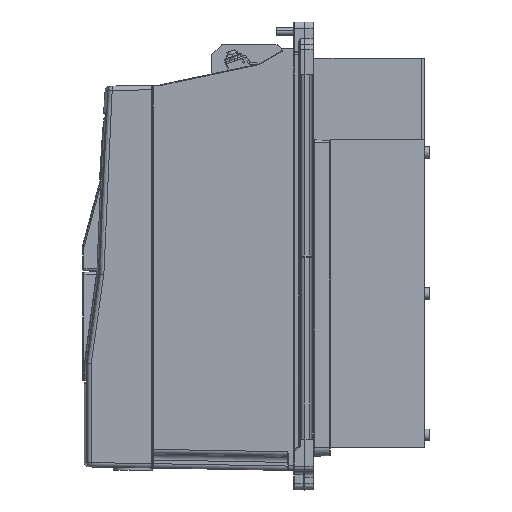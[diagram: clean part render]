
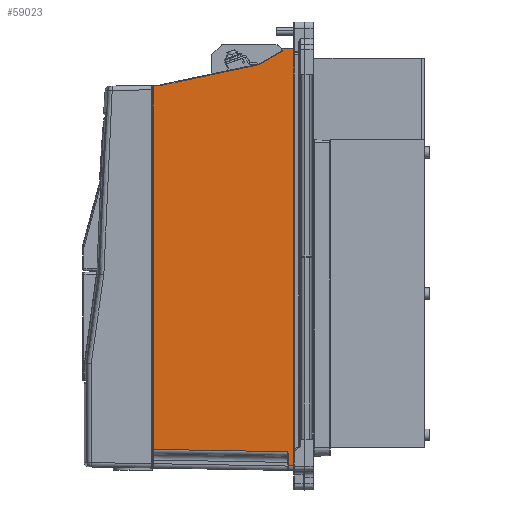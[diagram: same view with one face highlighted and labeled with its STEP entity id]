
A CAD part, left-side view. The second image highlights one B-rep face of the part: STEP entity #59023.
In plain terms, the highlighted planar face has unit normal (-1, 0.018, 0).
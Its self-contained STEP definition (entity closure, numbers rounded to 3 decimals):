
#605 = CARTESIAN_POINT ( 'NONE',  ( -108.8, 58.5, 166. ) ) ;
#1332 = DIRECTION ( 'NONE',  ( 0., 0., -1. ) ) ;
#4200 = VECTOR ( 'NONE', #16540, 1000. ) ;
#6044 = VECTOR ( 'NONE', #87222, 1000. ) ;
#6295 = CARTESIAN_POINT ( 'NONE',  ( -108.889, 53.518, 136.593 ) ) ;
#6544 = LINE ( 'NONE', #81723, #89160 ) ;
#6819 = CARTESIAN_POINT ( 'NONE',  ( -110.658, -44.991, 164.784 ) ) ;
#7159 = CARTESIAN_POINT ( 'NONE',  ( -108.699, 64.136, -153.017 ) ) ;
#8303 = CARTESIAN_POINT ( 'NONE',  ( -110.747, -49.991, -157.617 ) ) ;
#8412 = LINE ( 'NONE', #605, #72226 ) ;
#12632 = CARTESIAN_POINT ( 'NONE',  ( -110.819, -54., 170. ) ) ;
#12994 = VERTEX_POINT ( 'NONE', #6819 ) ;
#13228 = CARTESIAN_POINT ( 'NONE',  ( -110.73, -49.009, -154.992 ) ) ;
#16540 = DIRECTION ( 'NONE',  ( 0., 0., -1. ) ) ;
#16882 = CARTESIAN_POINT ( 'NONE',  ( -110.747, -49.991, -165.921 ) ) ;
#17315 = VECTOR ( 'NONE', #96002, 1000. ) ;
#19894 = VERTEX_POINT ( 'NONE', #83148 ) ;
#22257 = LINE ( 'NONE', #7159, #17315 ) ;
#22434 = EDGE_CURVE ( 'NONE', #75666, #75627, #72582, .T. ) ;
#22752 = CARTESIAN_POINT ( 'NONE',  ( -110.747, -49.991, -165.929 ) ) ;
#22765 = ORIENTED_EDGE ( 'NONE', *, *, #80045, .T. ) ;
#22863 = LINE ( 'NONE', #83872, #4200 ) ;
#23919 = CARTESIAN_POINT ( 'NONE',  ( -110.658, -44.991, 166. ) ) ;
#25089 = EDGE_CURVE ( 'NONE', #42901, #75627, #60378, .T. ) ;
#25936 = ORIENTED_EDGE ( 'NONE', *, *, #25089, .F. ) ;
#26812 = CARTESIAN_POINT ( 'NONE',  ( -110.73, -49.009, -154.992 ) ) ;
#28018 = DIRECTION ( 'NONE',  ( 0.018, 1., -0.017 ) ) ;
#28060 = EDGE_CURVE ( 'NONE', #19894, #56121, #83745, .T. ) ;
#30522 = CARTESIAN_POINT ( 'NONE',  ( -110.328, -26.648, 153.633 ) ) ;
#30790 = VERTEX_POINT ( 'NONE', #58927 ) ;
#31129 = CARTESIAN_POINT ( 'NONE',  ( -108.809, 58.009, 170. ) ) ;
#31240 = EDGE_CURVE ( 'NONE', #56121, #73316, #6544, .T. ) ;
#31711 = CARTESIAN_POINT ( 'NONE',  ( -110.747, -49.991, -157.379 ) ) ;
#31774 = CARTESIAN_POINT ( 'NONE',  ( -108.8, 58.5, 170. ) ) ;
#33255 = ORIENTED_EDGE ( 'NONE', *, *, #54035, .T. ) ;
#34904 = EDGE_CURVE ( 'NONE', #66320, #19894, #63807, .T. ) ;
#35064 = EDGE_LOOP ( 'NONE', ( #84586, #76231, #78211, #71757, #64013, #25936, #84943, #95624, #22765, #66925, #33255, #81612, #77488, #57457 ) ) ;
#36429 = EDGE_CURVE ( 'NONE', #58230, #73316, #72669, .T. ) ;
#36497 = DIRECTION ( 'NONE',  ( 0., 0., -1. ) ) ;
#36973 = CARTESIAN_POINT ( 'NONE',  ( -108.891, 53.455, 136.607 ) ) ;
#38220 = CARTESIAN_POINT ( 'NONE',  ( -110.658, -44.991, 164.784 ) ) ;
#38358 = CARTESIAN_POINT ( 'NONE',  ( -108.891, 53.455, 136.607 ) ) ;
#38616 = CARTESIAN_POINT ( 'NONE',  ( -108.887, 53.646, 136.585 ) ) ;
#39179 = CARTESIAN_POINT ( 'NONE',  ( -110.654, -44.808, 164.1 ) ) ;
#41167 = EDGE_CURVE ( 'NONE', #58230, #90869, #8412, .T. ) ;
#41232 = CARTESIAN_POINT ( 'NONE',  ( -108.81, 57.916, 136.51 ) ) ;
#41896 = CARTESIAN_POINT ( 'NONE',  ( -108.809, 58.009, -153.124 ) ) ;
#42901 = VERTEX_POINT ( 'NONE', #44656 ) ;
#44656 = CARTESIAN_POINT ( 'NONE',  ( -110.326, -26.545, 153.611 ) ) ;
#46121 = EDGE_CURVE ( 'NONE', #30790, #70602, #88738, .T. ) ;
#46384 = CARTESIAN_POINT ( 'NONE',  ( -110.743, -49.76, -156.465 ) ) ;
#46922 = DIRECTION ( 'NONE',  ( 0.018, 1., 0. ) ) ;
#50624 = VERTEX_POINT ( 'NONE', #36973 ) ;
#52242 = CARTESIAN_POINT ( 'NONE',  ( -110.745, -49.84, -156.69 ) ) ;
#52514 = CARTESIAN_POINT ( 'NONE',  ( -110.326, -26.545, 153.611 ) ) ;
#54035 = EDGE_CURVE ( 'NONE', #70602, #66320, #22257, .T. ) ;
#56121 = VERTEX_POINT ( 'NONE', #22752 ) ;
#57457 = ORIENTED_EDGE ( 'NONE', *, *, #31240, .T. ) ;
#58230 = VERTEX_POINT ( 'NONE', #77158 ) ;
#58371 = EDGE_CURVE ( 'NONE', #66174, #50624, #60084, .T. ) ;
#58820 = DIRECTION ( 'NONE',  ( -0.018, -1., -0.018 ) ) ;
#58927 = CARTESIAN_POINT ( 'NONE',  ( -108.809, 58.009, 136.509 ) ) ;
#59023 = ADVANCED_FACE ( 'NONE', ( #76706 ), #68878, .F. ) ;
#59237 = DIRECTION ( 'NONE',  ( 0.018, 1., 0. ) ) ;
#59372 = CARTESIAN_POINT ( 'NONE',  ( -110.332, -26.837, 153.723 ) ) ;
#60084 =( BOUNDED_CURVE ( )  B_SPLINE_CURVE ( 3, ( #78602, #80506, #6295, #38358 ),
 .UNSPECIFIED., .F., .T. ) 
 B_SPLINE_CURVE_WITH_KNOTS ( ( 4, 4 ),
 ( 1.588, 1.78 ),
 .UNSPECIFIED. ) 
 CURVE ( )  GEOMETRIC_REPRESENTATION_ITEM ( )  RATIONAL_B_SPLINE_CURVE ( ( 1., 0.997, 0.997, 1. ) ) 
 REPRESENTATION_ITEM ( '' )  );
#60378 =( BOUNDED_CURVE ( )  B_SPLINE_CURVE ( 3, ( #52514, #30522, #73497, #59372 ),
 .UNSPECIFIED., .F., .T. ) 
 B_SPLINE_CURVE_WITH_KNOTS ( ( 4, 4 ),
 ( 4.398, 4.712 ),
 .UNSPECIFIED. ) 
 CURVE ( )  GEOMETRIC_REPRESENTATION_ITEM ( )  RATIONAL_B_SPLINE_CURVE ( ( 1., 0.992, 0.992, 1. ) ) 
 REPRESENTATION_ITEM ( '' )  );
#61522 = CARTESIAN_POINT ( 'NONE',  ( -110.747, -49.956, -157.147 ) ) ;
#61589 = DIRECTION ( 'NONE',  ( 1., -0.018, 0. ) ) ;
#61676 = CARTESIAN_POINT ( 'NONE',  ( -110.658, -44.991, 164.418 ) ) ;
#61919 = CARTESIAN_POINT ( 'NONE',  ( -110.819, -54., -166.001 ) ) ;
#62162 = CARTESIAN_POINT ( 'NONE',  ( -110.649, -44.491, 163.917 ) ) ;
#62626 =( BOUNDED_CURVE ( )  B_SPLINE_CURVE ( 3, ( #62162, #39179, #61676, #38220 ),
 .UNSPECIFIED., .F., .T. ) 
 B_SPLINE_CURVE_WITH_KNOTS ( ( 4, 4 ),
 ( 4.712, 5.76 ),
 .UNSPECIFIED. ) 
 CURVE ( )  GEOMETRIC_REPRESENTATION_ITEM ( )  RATIONAL_B_SPLINE_CURVE ( ( 1., 0.911, 0.911, 1. ) ) 
 REPRESENTATION_ITEM ( '' )  );
#62948 = VECTOR ( 'NONE', #65104, 1000. ) ;
#63807 = B_SPLINE_CURVE_WITH_KNOTS ( 'NONE', 3,
 ( #13228, #82500, #68809, #46384, #52242, #61522, #31711, #8303 ),
 .UNSPECIFIED., .F., .F.,
 ( 4, 2, 2, 4 ),
 ( 0., 0.001, 0.002, 0.003 ),
 .UNSPECIFIED. ) ;
#64013 = ORIENTED_EDGE ( 'NONE', *, *, #22434, .T. ) ;
#65104 = DIRECTION ( 'NONE',  ( 0.018, 0.978, -0.208 ) ) ;
#66174 = VERTEX_POINT ( 'NONE', #38616 ) ;
#66320 = VERTEX_POINT ( 'NONE', #26812 ) ;
#66925 = ORIENTED_EDGE ( 'NONE', *, *, #46121, .T. ) ;
#68809 = CARTESIAN_POINT ( 'NONE',  ( -110.738, -49.482, -155.814 ) ) ;
#68878 = PLANE ( 'NONE',  #71297 ) ;
#69457 = VECTOR ( 'NONE', #36497, 1000. ) ;
#70602 = VERTEX_POINT ( 'NONE', #41896 ) ;
#71078 = EDGE_CURVE ( 'NONE', #42901, #50624, #81152, .T. ) ;
#71297 = AXIS2_PLACEMENT_3D ( 'NONE', #31774, #61589, #46922 ) ;
#71757 = ORIENTED_EDGE ( 'NONE', *, *, #76785, .F. ) ;
#72226 = VECTOR ( 'NONE', #59237, 1000. ) ;
#72582 = LINE ( 'NONE', #95988, #6044 ) ;
#72669 = LINE ( 'NONE', #12632, #69457 ) ;
#73316 = VERTEX_POINT ( 'NONE', #61919 ) ;
#73497 = CARTESIAN_POINT ( 'NONE',  ( -110.33, -26.746, 153.671 ) ) ;
#75627 = VERTEX_POINT ( 'NONE', #78393 ) ;
#75666 = VERTEX_POINT ( 'NONE', #93498 ) ;
#76231 = ORIENTED_EDGE ( 'NONE', *, *, #41167, .T. ) ;
#76706 = FACE_OUTER_BOUND ( 'NONE', #35064, .T. ) ;
#76785 = EDGE_CURVE ( 'NONE', #75666, #12994, #62626, .T. ) ;
#77158 = CARTESIAN_POINT ( 'NONE',  ( -110.819, -54., 166. ) ) ;
#77488 = ORIENTED_EDGE ( 'NONE', *, *, #28060, .T. ) ;
#78211 = ORIENTED_EDGE ( 'NONE', *, *, #93391, .T. ) ;
#78393 = CARTESIAN_POINT ( 'NONE',  ( -110.332, -26.837, 153.723 ) ) ;
#78602 = CARTESIAN_POINT ( 'NONE',  ( -108.887, 53.646, 136.585 ) ) ;
#79705 = VECTOR ( 'NONE', #89131, 1000. ) ;
#80045 = EDGE_CURVE ( 'NONE', #66174, #30790, #94914, .T. ) ;
#80365 = VECTOR ( 'NONE', #1332, 1000. ) ;
#80506 = CARTESIAN_POINT ( 'NONE',  ( -108.888, 53.582, 136.586 ) ) ;
#81152 = LINE ( 'NONE', #87987, #62948 ) ;
#81612 = ORIENTED_EDGE ( 'NONE', *, *, #34904, .T. ) ;
#81723 = CARTESIAN_POINT ( 'NONE',  ( -108.693, 64.434, -163.895 ) ) ;
#82196 = VECTOR ( 'NONE', #28018, 1000. ) ;
#82500 = CARTESIAN_POINT ( 'NONE',  ( -110.734, -49.246, -155.402 ) ) ;
#83148 = CARTESIAN_POINT ( 'NONE',  ( -110.747, -49.991, -157.617 ) ) ;
#83745 = LINE ( 'NONE', #16882, #79705 ) ;
#83872 = CARTESIAN_POINT ( 'NONE',  ( -110.658, -44.991, 170. ) ) ;
#84586 = ORIENTED_EDGE ( 'NONE', *, *, #36429, .F. ) ;
#84943 = ORIENTED_EDGE ( 'NONE', *, *, #71078, .T. ) ;
#87222 = DIRECTION ( 'NONE',  ( 0.016, 0.866, -0.5 ) ) ;
#87987 = CARTESIAN_POINT ( 'NONE',  ( -108.926, 51.493, 137.024 ) ) ;
#88738 = LINE ( 'NONE', #31129, #80365 ) ;
#89131 = DIRECTION ( 'NONE',  ( 0., 0., -1. ) ) ;
#89160 = VECTOR ( 'NONE', #58820, 1000. ) ;
#90869 = VERTEX_POINT ( 'NONE', #23919 ) ;
#93391 = EDGE_CURVE ( 'NONE', #90869, #12994, #22863, .T. ) ;
#93498 = CARTESIAN_POINT ( 'NONE',  ( -110.649, -44.491, 163.917 ) ) ;
#94914 = LINE ( 'NONE', #41232, #82196 ) ;
#95624 = ORIENTED_EDGE ( 'NONE', *, *, #58371, .F. ) ;
#95988 = CARTESIAN_POINT ( 'NONE',  ( -110.33, -26.763, 153.681 ) ) ;
#96002 = DIRECTION ( 'NONE',  ( -0.018, -1., -0.017 ) ) ;
